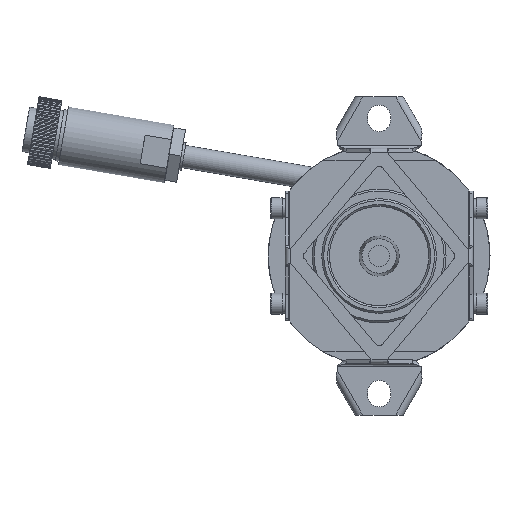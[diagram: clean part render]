
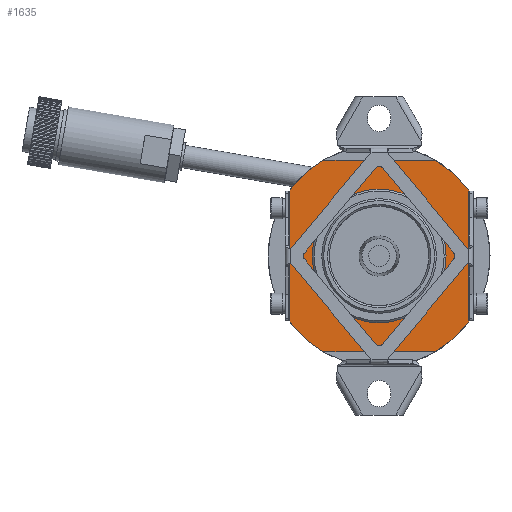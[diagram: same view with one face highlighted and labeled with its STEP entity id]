
A CAD part, left-side view. The second image highlights one B-rep face of the part: STEP entity #1635.
In plain terms, the highlighted planar face has unit normal (-1, 0, 0).
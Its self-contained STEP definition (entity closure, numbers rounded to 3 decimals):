
#1635=ADVANCED_FACE('',(#8796,#8798),#8800,.F.);
#8796=FACE_BOUND('',#8797,.T.);
#8797=EDGE_LOOP('',(#16069,#16070,#16071,#16072,#16073,#16074,#16075,#16076));
#8798=FACE_BOUND('',#8799,.T.);
#8799=EDGE_LOOP('',(#16077));
#8800=PLANE('',#8801);
#8801=AXIS2_PLACEMENT_3D('',#8802,#8803,#8804);
#8802=CARTESIAN_POINT('',(-15.,0.,-17.5));
#8803=DIRECTION('',(1.,0.,0.));
#8804=DIRECTION('',(0.,-1.,0.));
#16069=ORIENTED_EDGE('',*,*,#19513,.T.);
#16070=ORIENTED_EDGE('',*,*,#19471,.T.);
#16071=ORIENTED_EDGE('',*,*,#19514,.T.);
#16072=ORIENTED_EDGE('',*,*,#19467,.T.);
#16073=ORIENTED_EDGE('',*,*,#19508,.T.);
#16074=ORIENTED_EDGE('',*,*,#19483,.T.);
#16075=ORIENTED_EDGE('',*,*,#19515,.T.);
#16076=ORIENTED_EDGE('',*,*,#19479,.T.);
#16077=ORIENTED_EDGE('',*,*,#19516,.F.);
#19467=EDGE_CURVE('',#21643,#21641,#21644,.T.);
#19471=EDGE_CURVE('',#21651,#21649,#21652,.T.);
#19479=EDGE_CURVE('',#21667,#21665,#21668,.T.);
#19483=EDGE_CURVE('',#21675,#21673,#21676,.T.);
#19508=EDGE_CURVE('',#21641,#21675,#21719,.T.);
#19513=EDGE_CURVE('',#21665,#21651,#21727,.T.);
#19514=EDGE_CURVE('',#21649,#21643,#21728,.T.);
#19515=EDGE_CURVE('',#21673,#21667,#21729,.T.);
#19516=EDGE_CURVE('',#21730,#21730,#21731,.T.);
#21641=VERTEX_POINT('',#26028);
#21643=VERTEX_POINT('',#26032);
#21644=CIRCLE('',#26033,29.);
#21649=VERTEX_POINT('',#26046);
#21651=VERTEX_POINT('',#26050);
#21652=CIRCLE('',#26051,29.);
#21665=VERTEX_POINT('',#26084);
#21667=VERTEX_POINT('',#26088);
#21668=CIRCLE('',#26089,29.);
#21673=VERTEX_POINT('',#26102);
#21675=VERTEX_POINT('',#26106);
#21676=CIRCLE('',#26107,29.);
#21719=LINE('',#26558,#26559);
#21727=LINE('',#26579,#26580);
#21728=LINE('',#26582,#26583);
#21729=LINE('',#26585,#26586);
#21730=VERTEX_POINT('',#26588);
#21731=CIRCLE('',#26589,17.5);
#26028=CARTESIAN_POINT('',(-15.,23.5,16.993));
#26032=CARTESIAN_POINT('',(-15.,14.697,25.));
#26033=AXIS2_PLACEMENT_3D('',#26034,#26035,#26036);
#26034=CARTESIAN_POINT('',(-15.,0.,0.));
#26035=DIRECTION('',(-1.,0.,0.));
#26036=DIRECTION('',(0.,0.507,0.862));
#26046=CARTESIAN_POINT('',(-15.,-14.697,25.));
#26050=CARTESIAN_POINT('',(-15.,-23.5,16.993));
#26051=AXIS2_PLACEMENT_3D('',#26052,#26053,#26054);
#26052=CARTESIAN_POINT('',(-15.,0.,0.));
#26053=DIRECTION('',(-1.,0.,0.));
#26054=DIRECTION('',(0.,-0.81,0.586));
#26084=CARTESIAN_POINT('',(-15.,-23.5,-16.993));
#26088=CARTESIAN_POINT('',(-15.,-14.697,-25.));
#26089=AXIS2_PLACEMENT_3D('',#26090,#26091,#26092);
#26090=CARTESIAN_POINT('',(-15.,0.,0.));
#26091=DIRECTION('',(-1.,0.,0.));
#26092=DIRECTION('',(0.,-0.507,-0.862));
#26102=CARTESIAN_POINT('',(-15.,14.697,-25.));
#26106=CARTESIAN_POINT('',(-15.,23.5,-16.993));
#26107=AXIS2_PLACEMENT_3D('',#26108,#26109,#26110);
#26108=CARTESIAN_POINT('',(-15.,0.,0.));
#26109=DIRECTION('',(-1.,0.,0.));
#26110=DIRECTION('',(0.,0.81,-0.586));
#26558=CARTESIAN_POINT('',(-15.,23.5,16.993));
#26559=VECTOR('',#26560,1.);
#26560=DIRECTION('',(0.,0.,-1.));
#26579=CARTESIAN_POINT('',(-15.,-23.5,-16.993));
#26580=VECTOR('',#26581,1.);
#26581=DIRECTION('',(0.,0.,1.));
#26582=CARTESIAN_POINT('',(-15.,-14.697,25.));
#26583=VECTOR('',#26584,1.);
#26584=DIRECTION('',(0.,1.,0.));
#26585=CARTESIAN_POINT('',(-15.,14.697,-25.));
#26586=VECTOR('',#26587,1.);
#26587=DIRECTION('',(0.,-1.,0.));
#26588=CARTESIAN_POINT('',(-15.,17.5,0.));
#26589=AXIS2_PLACEMENT_3D('',#26590,#26591,#26592);
#26590=CARTESIAN_POINT('',(-15.,0.,0.));
#26591=DIRECTION('',(-1.,0.,0.));
#26592=DIRECTION('',(0.,1.,0.));
